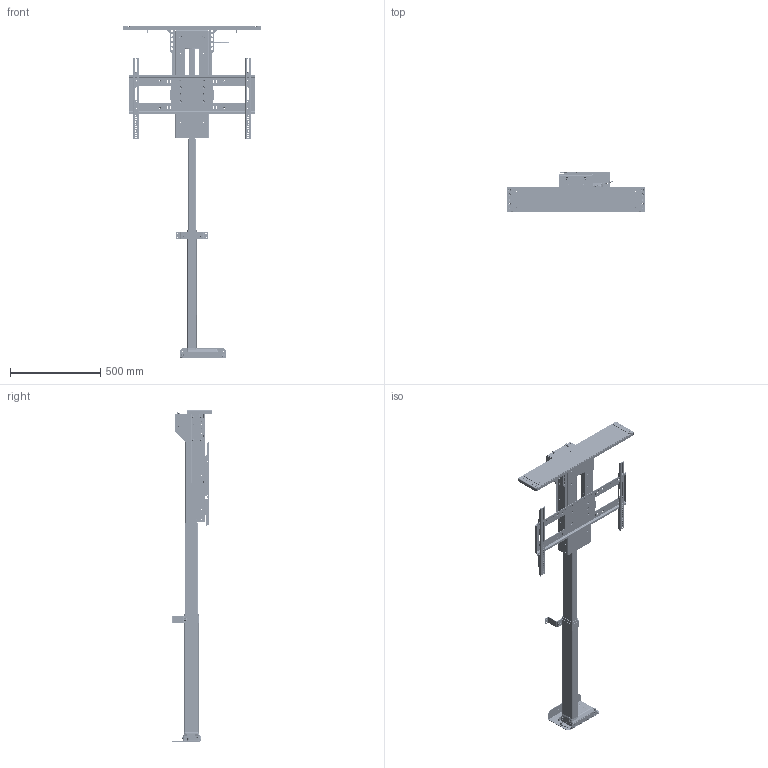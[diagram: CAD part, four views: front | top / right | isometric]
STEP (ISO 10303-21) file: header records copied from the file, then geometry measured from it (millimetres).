
FILE_DESCRIPTION(/* description */ ('STEP AP242','CAx-IF Rec.Pracs.---Representation and Presentation of Product Manufacturing Information (PMI)---4.0---2014-10-13','CAx-IF Rec.Pracs.---3D Tessellated Geometry---0.4---2014-09-14','2;1'),/* implementation_level */ '2;1');
FILE_NAME(/* name */ '64b01e141b8c9b31e18cd006',/* time_stamp */ '2023-07-13T15:54:03Z',/* author */ (''),/* organization */ (''),/* preprocessor_version */ 'ST-DEVELOPER v19.4',/* originating_system */ ' ',/* authorisation */ ' ');
FILE_SCHEMA (('AP242_MANAGED_MODEL_BASED_3D_ENGINEERING_MIM_LF { 1 0 10303 442 1 1 4 }'));
Products named in the file (111): L-65x; Socket button head screw M6x1 x 16; Hex socket countersunk head screw M6x1 x 12; Socket button head screw M6x1 x 12; WDS8151-215; ULS-NX-039 - ULS HD LID SUPPORT w/ PEMs <2>; PEM CLS-M6-00  ; ULS-NX-039 -- ULS HD LID SUPPORT; L65 PS Adapter; L-65 Lower Sub Assembly <1>; ULS-NX-004 - ULS COLUMN CLAMP; ULS-NX-002 - ULS QUICK RELEASE LC MOUNT; ULS-NX-038 - MS Rear Support <1>; ULS-NX-038 - MS Rear Support; PEM FHS-M6-12  ; ULS-NX-023 -- MS QR Base Mount <1>; ULS-NX-023 - MS QR Base Mount; Lift Column H <1>; L45 LC Middle Profile; L45 LC Inner Profile; L45 LC Motor Housing; ULS-NX-039 - ULS HD LID SUPPORT w/ PEMs <1>; SBP & VMB <1>; PZ Pan head screw M5x0.80 x 25; ULS-NX-017 - UL SCREEN BACK PLATE; ULS-NX-118 - UL VMB WELDMENT <1>; VMB Washer; 90107A012; ULS-NX-019 - UL LEVEL ADJUSTMENT PLATE; PEM BSO-632-10  ZI; Socket button head cap screw #6-32 x 0.188; ULS-NX-018 - UL VERICAL MOUNTING BAR; ULS-NX-020 - UL SCREEN LOCK; ULS-NX-118 - UL VMB WELDMENT <2>; L-65 HD Lid Plate Assembly w/ Lid Adapter <1>; PEM S-M6-1  ZI; 97069A106_Zinc-Plated Steel Spring Lock Washer; Hex socket countersunk head screw M6x1 x 10; Plain washer extra large grade C M6; PEM FH-M6-18  ZI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
Assembly tree (303 placements, depth 4):
  L-65x
    Socket button head screw M6x1 x 16  x4
    Hex socket countersunk head screw M6x1 x 12  x12
    Socket button head screw M6x1 x 12  x14
    WDS8151-215  x4
    ULS-NX-039 - ULS HD LID SUPPORT w/ PEMs <2>
      PEM CLS-M6-00    x2
      ULS-NX-039 -- ULS HD LID SUPPORT
    L65 PS Adapter
    L-65 Lower Sub Assembly <1>
      ULS-NX-004 - ULS COLUMN CLAMP
      ULS-NX-002 - ULS QUICK RELEASE LC MOUNT
      ULS-NX-038 - MS Rear Support <1>
        ULS-NX-038 - MS Rear Support
        PEM FHS-M6-12    x2
      ULS-NX-023 -- MS QR Base Mount <1>
        PEM FHS-M6-12    x2
        ULS-NX-023 - MS QR Base Mount
      Lift Column H <1>
        L45 LC Middle Profile
        L45 LC Inner Profile
        L45 LC Motor Housing
    ULS-NX-039 - ULS HD LID SUPPORT w/ PEMs <1>
      PEM CLS-M6-00    x2
      ULS-NX-039 -- ULS HD LID SUPPORT
    SBP & VMB <1>
      PZ Pan head screw M5x0.80 x 25  x2
      ULS-NX-017 - UL SCREEN BACK PLATE
      ULS-NX-118 - UL VMB WELDMENT <1>
        VMB Washer  x4
        90107A012  x2
        ULS-NX-019 - UL LEVEL ADJUSTMENT PLATE
        PEM BSO-632-10  ZI  x2
        Socket button head cap screw #6-32 x 0.188  x2
        ULS-NX-018 - UL VERICAL MOUNTING BAR
        ULS-NX-020 - UL SCREEN LOCK
      ULS-NX-118 - UL VMB WELDMENT <2>
        ULS-NX-018 - UL VERICAL MOUNTING BAR
        PEM BSO-632-10  ZI  x2
        90107A012  x2
        Socket button head cap screw #6-32 x 0.188  x2
        ULS-NX-020 - UL SCREEN LOCK
        VMB Washer  x4
        ULS-NX-019 - UL LEVEL ADJUSTMENT PLATE
    L-65 HD Lid Plate Assembly w/ Lid Adapter <1>
      PEM S-M6-1  ZI  x6
      97069A106_Zinc-Plated Steel Spring Lock Washer  x4
      Hex socket countersunk head screw M6x1 x 10  x4
      Plain washer extra large grade C M6  x4
      PEM FH-M6-18  ZI  x4
      L-85 TOP PLATE REV C (L85-LM-056)
      Hex thin nut grade A & B M6  x4
      L-85 TOP PLATE EXTENSION REV B (L85-LM-057)  x2
      NEX-LM-032 -- LID PIN GUIDE  x2
      L85-LM-058 - Lid Adapter Plate Rev F <1>
        Self Clinching Pilot Pin  x2
        L-85 LID ADAPTER REV F (L85-LM-058)
    Motorized Swivel 2.0 w/ SS Long - Rev F6 <1>
      PEM CLS-M6-1  x48
      b2-501631 _2_
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Bounding box: 768.1 x 222.46 x 1834.83 mm (x, y, z)
Volume: 10656323.1 mm3; surface area: 2726141 mm2
Topology: 279 solids, 292 shells, 12825 faces, 33572 edges, 21899 vertices
Faces by surface type: plane 7362, cylinder 2799, bspline 1192, cone 897, torus 499, sphere 76
Full cylindrical faces by diameter (mm): 0.914 x3, 1.016 x3, 1.041 x1, 1.194 x2, 1.208 x1, 1.32 x2, 1.499 x1, 1.524 x6, 1.552 x1, 1.6 x3, 1.956 x8, 2.007 x1, 2.2 x1, 2.235 x2, 2.5 x6, 2.642 x4, 3.048 x2, 3.175 x3, 3.4 x12, 3.505 x7, 3.683 x1, 4 x14, 4.242 x2, 4.496 x6, 4.6 x2, 4.763 x7, 4.917 x62, 5 x48, 5.026 x4, 5.08 x4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
Entity records: 244364 total; most frequent: CARTESIAN_POINT 107682, ORIENTED_EDGE 27596, DIRECTION 24573, EDGE_CURVE 13914, VERTEX_POINT 9453, AXIS2_PLACEMENT_3D 8671, LINE 7231, VECTOR 7231
